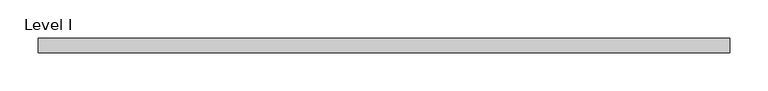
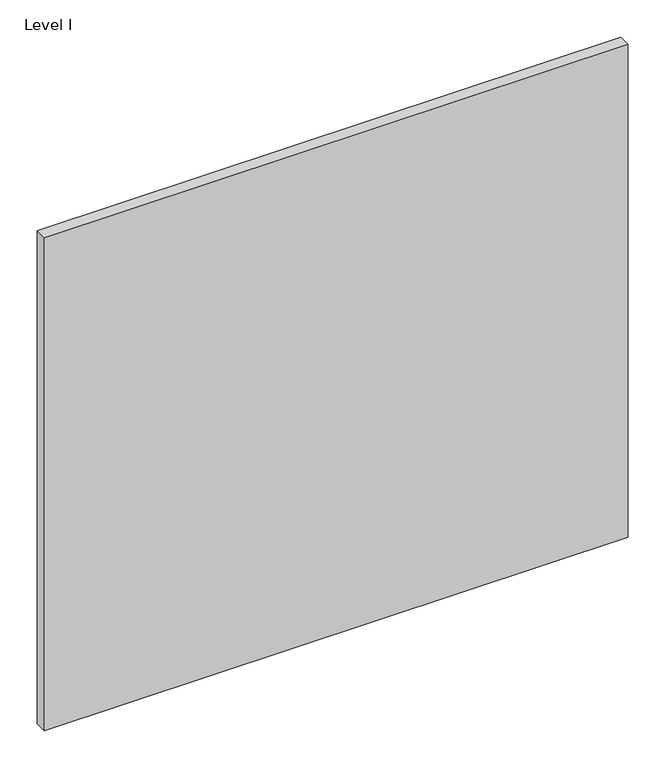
"""IFC4 building model written with IfcOpenShell, lengths in millimetres: proxy geometry, Panel-Fascia-Teknion-Altos-Standard : Level I."""

import ifcopenshell
import ifcopenshell.guid

model = None  # the IFC model being written
_history = None  # IfcOwnerHistory: only IFC2X3 demands one
_inside = {}  # id of a spatial element -> (the spatial element, [elements in it])
_under = {}  # id of a project, library or spatial element -> (it, [spatial elements below it])
_declared = {}  # id of a project -> (the project, [libraries it declares])
_typed = {}  # id of a type object -> (the type object, [elements of that type])
_made_of = {}  # id of a material, layer set ... -> (it, [elements and type objects made of it])


def new_model(schema):
    """Start an empty IFC model of exactly this schema.

    Asked for "IFC4X3", IfcOpenShell would pick the latest addendum, in which some entities
    have other attributes; the version numbers below select the first issue.
    IFC2X3 requires an IfcOwnerHistory on every rooted entity: one is made here for all.
    """
    global model, _history
    if schema == "IFC4X3":
        model = ifcopenshell.file(schema_version=(4, 3, 0, 0))
    else:
        model = ifcopenshell.file(schema=schema)
    _inside.clear()
    _under.clear()
    _declared.clear()
    _typed.clear()
    _made_of.clear()
    _history = None
    if model.schema == "IFC2X3":
        org = make("IfcOrganization", Name="unknown")
        user = make(
            "IfcPersonAndOrganization",
            ThePerson=make("IfcPerson", FamilyName="unknown"),
            TheOrganization=org,
        )
        app = make(
            "IfcApplication",
            ApplicationDeveloper=org,
            Version="unknown",
            ApplicationFullName="unknown",
            ApplicationIdentifier="unknown",
        )
        _history = make(
            "IfcOwnerHistory",
            OwningUser=user,
            OwningApplication=app,
            ChangeAction="ADDED",
            CreationDate=0,
        )
    return model


def make(cls, **values):
    """One entity of the class cls with the attributes given. An attribute that is None is left unset."""
    return model.create_entity(
        cls, **{name: value for name, value in values.items() if value is not None}
    )


def rooted(cls, **values):
    """An entity with a GlobalId (a new one), such as an element, a storey or a relation."""
    return make(cls, GlobalId=ifcopenshell.guid.new(), OwnerHistory=_history, **values)


def si_unit(unit_type, name, prefix=None):
    """IfcSIUnit, for example si_unit("LENGTHUNIT", "METRE", prefix="MILLI")."""
    return make("IfcSIUnit", UnitType=unit_type, Prefix=prefix, Name=name)


def assignment(units):
    """IfcUnitAssignment: the units of a project."""
    return None if units is None else make("IfcUnitAssignment", Units=units)


def point(xyz):
    """IfcCartesianPoint."""
    return None if xyz is None else make("IfcCartesianPoint", Coordinates=xyz)


def direction(xyz):
    """IfcDirection."""
    return None if xyz is None else make("IfcDirection", DirectionRatios=xyz)


def frame(location, z_axis=None, x_axis=None):
    """IfcAxis2Placement3D, a coordinate frame: its origin and axes. An axis left out is left unset."""
    return make(
        "IfcAxis2Placement3D",
        Location=point(location),
        Axis=direction(z_axis),
        RefDirection=direction(x_axis),
    )


def origin():
    """The frame at (0, 0, 0) with its axes left unset."""
    return frame((0.0, 0.0, 0.0))


def place(relative_to, where):
    """IfcLocalPlacement: puts the frame where relative to a parent placement (None: the world)."""
    return make(
        "IfcLocalPlacement", PlacementRelTo=relative_to, RelativePlacement=where
    )


def context(
    kind, dimensions, precision=None, world=None, true_north=None, identifier=None
):
    """IfcGeometricRepresentationContext, for example the 3D "Model" context."""
    return make(
        "IfcGeometricRepresentationContext",
        ContextIdentifier=identifier,
        ContextType=kind,
        CoordinateSpaceDimension=dimensions,
        Precision=precision,
        WorldCoordinateSystem=world,
        TrueNorth=true_north,
    )


def project(units=None, contexts=None):
    """IfcProject with its units and contexts."""
    return rooted(
        "IfcProject",
        Name="project",
        RepresentationContexts=contexts,
        UnitsInContext=assignment(units),
    )


def spatial(cls, under=None, at=None, **own):
    """A site, building, storey or space (cls), placed at a placement, below another one or the project."""
    s = rooted(cls, ObjectPlacement=at, **own)
    if under is not None:
        _under.setdefault(under.id(), (under, []))[1].append(s)
    return s


def polyline(points):
    """IfcPolyline through the points."""
    return make("IfcPolyline", Points=[point(p) for p in points])


def outline(outer, holes=None, kind="AREA"):
    """IfcArbitraryClosedProfileDef: a profile drawn as a closed curve; with holes, ...WithVoids."""
    if holes is None:
        return make("IfcArbitraryClosedProfileDef", ProfileType=kind, OuterCurve=outer)
    return make(
        "IfcArbitraryProfileDefWithVoids",
        ProfileType=kind,
        OuterCurve=outer,
        InnerCurves=holes,
    )


def extrude(swept, where, along, depth):
    """IfcExtrudedAreaSolid: the profile swept, set in the frame where, extruded along a direction by depth."""
    return make(
        "IfcExtrudedAreaSolid",
        SweptArea=swept,
        Position=where,
        ExtrudedDirection=direction(along),
        Depth=depth,
    )


def shape(context_of_items, identifier, shape_type, items):
    """IfcShapeRepresentation: the items that make up one representation, for example the "Body"."""
    return make(
        "IfcShapeRepresentation",
        ContextOfItems=context_of_items,
        RepresentationIdentifier=identifier,
        RepresentationType=shape_type,
        Items=items,
    )


def source(mapping_origin, context_of_items, identifier, shape_type, items):
    """IfcRepresentationMap: a shape defined once, which mapped items show again and again."""
    return make(
        "IfcRepresentationMap",
        MappingOrigin=mapping_origin,
        MappedRepresentation=shape(context_of_items, identifier, shape_type, items),
    )


def transform(
    local_origin,
    x_axis=None,
    y_axis=None,
    z_axis=None,
    scale=None,
    scale2=None,
    scale3=None,
    uniform=True,
):
    """IfcCartesianTransformationOperator3D, or its non-uniform kind. x_axis, y_axis, z_axis: its Axis1, 2, 3."""
    if uniform:
        return make(
            "IfcCartesianTransformationOperator3D",
            Axis1=direction(x_axis),
            Axis2=direction(y_axis),
            LocalOrigin=point(local_origin),
            Scale=scale,
            Axis3=direction(z_axis),
        )
    return make(
        "IfcCartesianTransformationOperator3DnonUniform",
        Axis1=direction(x_axis),
        Axis2=direction(y_axis),
        LocalOrigin=point(local_origin),
        Scale=scale,
        Axis3=direction(z_axis),
        Scale2=scale2,
        Scale3=scale3,
    )


def mapped(mapping_source, mapping_target):
    """IfcMappedItem: shows the shape of a source again, moved by a transform."""
    return make(
        "IfcMappedItem", MappingSource=mapping_source, MappingTarget=mapping_target
    )


def made_of(thing, what):
    """Note that an element or type object is made of a material, layer set ...; save() writes the relation."""
    if what is not None:
        _made_of.setdefault(what.id(), (what, []))[1].append(thing)
    return thing


def element(
    cls,
    number,
    at=None,
    inside=None,
    cuts=None,
    type_object=None,
    material=None,
    context=None,
    identifier="Body",
    shape_type=None,
    held_by="IfcProductDefinitionShape",
    body=None,
    shapes=None,
    **own,
):
    """One element of the class cls, such as IfcWall. Its Tag is "e" and its number.

    at: its placement. inside: the storey or other place that contains it. cuts: it is an
    opening in that element (IfcRelVoidsElement). A single representation is given by context,
    identifier, shape_type and body (its items); several are given by shapes. held_by: the class
    of the entity that holds the representations. save() writes the other relations.
    """
    e = rooted(cls, Tag="e%d" % number, ObjectPlacement=at, **own)
    if body is not None:
        shapes = [shape(context, identifier, shape_type, body)]
    if shapes is not None:
        e.Representation = make(held_by, Representations=shapes)
    if inside is not None:
        _inside.setdefault(inside.id(), (inside, []))[1].append(e)
    if cuts is not None:
        rooted(
            "IfcRelVoidsElement", RelatingBuildingElement=cuts, RelatedOpeningElement=e
        )
    if type_object is not None:
        _typed.setdefault(type_object.id(), (type_object, []))[1].append(e)
    return made_of(e, material)


def aggregate(whole, parts):
    """IfcRelAggregates: a whole, such as a stair, and the parts it consists of."""
    return rooted("IfcRelAggregates", RelatingObject=whole, RelatedObjects=parts)


def save(model, path):
    """Write the relations noted so far, then the file.

    IfcRelAggregates (storeys below a building ...), IfcRelContainedInSpatialStructure (elements
    in a storey), IfcRelDefinesByType, IfcRelAssociatesMaterial and IfcRelDeclares: one each for
    every whole, place, type object, material and project.
    """
    for whole, parts in _under.values():
        aggregate(whole, parts)
    for where, things in _inside.values():
        rooted(
            "IfcRelContainedInSpatialStructure",
            RelatedElements=things,
            RelatingStructure=where,
        )
    for kind, things in _typed.values():
        rooted("IfcRelDefinesByType", RelatedObjects=things, RelatingType=kind)
    for what, things in _made_of.values():
        rooted("IfcRelAssociatesMaterial", RelatedObjects=things, RelatingMaterial=what)
    for by, libraries in _declared.values():
        rooted("IfcRelDeclares", RelatingContext=by, RelatedDefinitions=libraries)
    model.write(path)


def level_i_215115a4(model_context):
    return source(origin(), model_context, "Body", "SweptSolid", [
        extrude(outline(polyline([(454.025, -9.525), (-454.025, -9.525), (-454.025, 9.525), (454.025, 9.525), (454.025, -9.525)])), frame((0.0, 0.0, 3.175), z_axis=(0.0, 0.0, 1.0), x_axis=(1.0, 0.0, 0.0)), (0.0, 0.0, 1.0), 810.768),
    ])


if __name__ == "__main__":
    model = new_model("IFC4")
    model_context = context("Model", 3, world=origin())
    ifc_project = project(units=[si_unit("LENGTHUNIT", "METRE", prefix="MILLI")], contexts=[model_context])
    site = spatial("IfcSite", under=ifc_project)
    building = spatial("IfcBuilding", under=site)
    placement = place(None, origin())
    level_i_shape = level_i_215115a4(model_context)
    element("IfcBuildingElementProxy", 1, Name="Panel-Fascia-Teknion-Altos-Standard : Level I", ObjectType="Panel-Fascia-Teknion-Altos-Standard : Level I", at=placement, inside=building, context=model_context, shape_type="MappedRepresentation", body=[
        mapped(level_i_shape, transform((0.0, 0.0, 0.0), x_axis=(1.0, 0.0, 0.0), y_axis=(0.0, 1.0, 0.0), z_axis=(0.0, 0.0, 1.0))),
    ])
    save(model, "model.ifc")
